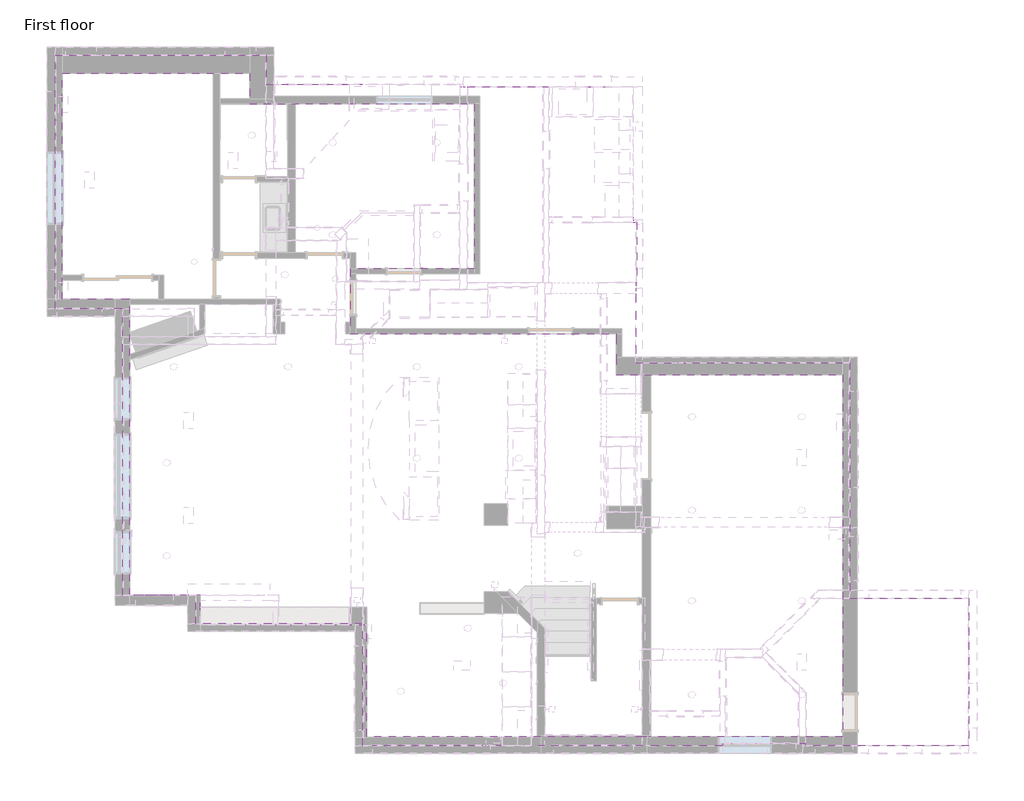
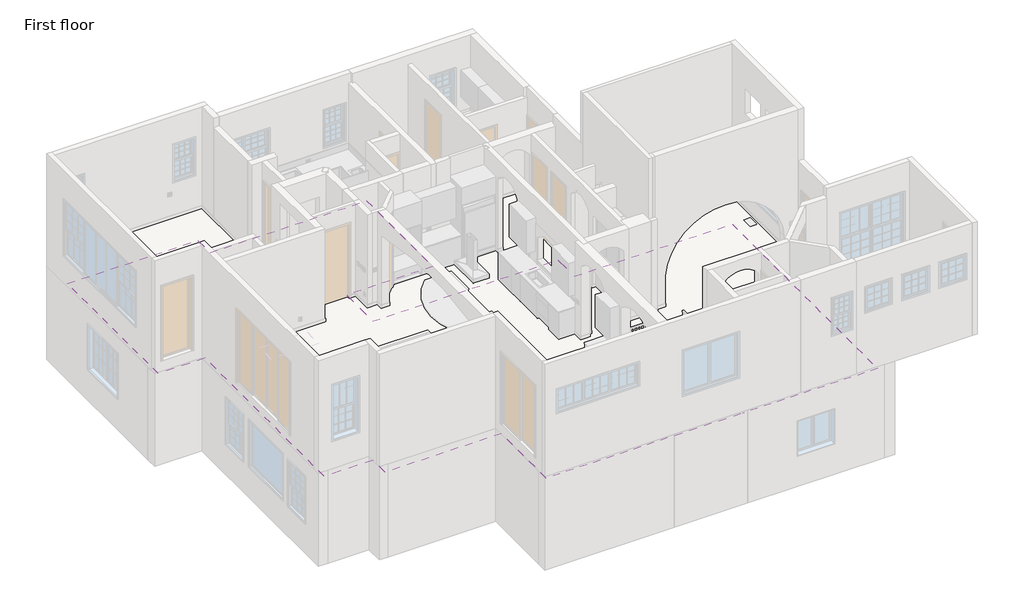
# One storey, part 9 of 14: 1 covering, 1 slab.
"""IFC4 building model written with IfcOpenShell, lengths in millimetres."""

from ifc_helpers import new_model, si_unit, frame, origin, place, context, project, spatial, polyline, circle_curve, faceted_brep, element, save
from ifc_brep_helpers import plane_surface, revolved_surface, advanced_brep

model = new_model("IFC4")

# Units and contexts
model_context = context("Model", 3, world=origin())
ifc_project = project(units=[si_unit("LENGTHUNIT", "METRE", prefix="MILLI")], contexts=[model_context])

# Site, building, storey
site = spatial("IfcSite", under=ifc_project)
building = spatial("IfcBuilding", under=site)
storey = spatial("IfcBuildingStorey", under=building, Name="First floor", Elevation=0.0)

# Covering
placement = place(None, origin())
element("IfcCovering", 1, ObjectType="Ceiling_13.5\"", at=placement, inside=storey, context=model_context, shape_type="AdvancedBrep", body=[
    advanced_brep(
    [(-2279.65, 14058.9, 2908.3), (-2279.65, 14719.3, 2908.3), (-6337.3, 14719.3, 2908.3), (-6337.3, 9829.8, 2908.3), (-4876.8, 9829.8, 2908.3), (-4876.8, 3416.3, 2908.3), (-3352.8, 3416.3, 2908.3), (-3352.8, 2768.6, 2908.3), (254.0176056, 2768.6, 2908.3), (254.0176056, 355.6, 2908.3), (4019.5496704, 355.6, 2908.3), (5841.9131509, 355.6, 2908.3), (6305.55, 355.6, 2908.3), (10553.7, 355.6, 2908.3), (10553.7, 8191.5, 2908.3), (5651.5, 8191.5, 2908.3), (5651.5, 9080.5, 2908.3), (-101.6, 9080.5, 2908.3), (-101.6, 10490.2, 2908.3), (2578.1, 10490.2, 2908.3), (2578.1, 14058.9, 2908.3), (4102.1, 381.0, 2908.3), (4102.1, 3721.1, 2908.3), (5092.7, 3721.1, 2908.3), (5092.7, 3352.8, 2908.3), (6210.3, 3352.8, 2908.3), (6210.3, 381.0, 2908.3), (-2279.65, 14719.3, 2565.4), (-2279.65, 14058.9, 2565.4), (2578.1, 14058.9, 2565.4), (2578.1, 10490.2, 2565.4), (-101.6, 10490.2, 2565.4), (-101.6, 9080.5, 2565.4), (5651.5, 9080.5, 2565.4), (5651.5, 8191.5, 2565.4), (10553.7, 8191.5, 2565.4), (10553.7, 355.6, 2565.4), (6400.8, 355.6, 2565.4), (6305.55, 355.6, 2565.4), (5841.9131509, 355.6, 2565.4), (4019.5496704, 355.6, 2565.4), (254.0176056, 355.6, 2565.4), (254.0176056, 2768.6, 2565.4), (-3352.8, 2768.6, 2565.4), (-3352.8, 3416.3, 2565.4), (-4876.8, 3416.3, 2565.4), (-4876.8, 9829.8, 2565.4), (-6337.3, 9829.8, 2565.4), (-6337.3, 14719.3, 2565.4), (4102.1, 3721.1, 2565.4), (4102.1, 381.0, 2565.4), (6210.3, 381.0, 2565.4), (6210.3, 3352.8, 2565.4), (5092.7, 3352.8, 2565.4), (5092.7, 3721.1, 2565.4), (9664.7, 1206.5266421, 2565.4), (9664.7, 1333.5266421, 2565.4), (9664.7, 7226.3266421, 2565.4), (9664.7, 7353.3266421, 2565.4), (7289.8, 7226.3266421, 2565.4), (7289.8, 7353.3266421, 2565.4), (7289.8, 5194.3266421, 2565.4), (7289.8, 5321.3266421, 2565.4), (9664.7, 5194.3266421, 2565.4), (9664.7, 5321.3266421, 2565.4), (9664.7, 3238.5266421, 2565.4), (9664.7, 3365.5266421, 2565.4), (7289.8, 3238.5266421, 2565.4), (7289.8, 3365.5266421, 2565.4), (7289.8, 1206.5266421, 2565.4), (7289.8, 1333.5266421, 2565.4), (-4076.7, 6223.0, 2565.4), (-4076.7, 6350.0, 2565.4), (-3924.3, 8305.8, 2565.4), (-3924.3, 8432.8, 2565.4), (-1454.15, 8305.8, 2565.4), (-1454.15, 8432.8, 2565.4), (1333.5, 6324.6, 2565.4), (1333.5, 6451.6, 2565.4), (1333.5, 8305.8, 2565.4), (1333.5, 8432.8, 2565.4), (3543.3, 8305.8, 2565.4), (3543.3, 8432.8, 2565.4), (3543.3, 6324.6, 2565.4), (3543.3, 6451.6, 2565.4), (-4076.7, 4216.4, 2565.4), (-4076.7, 4343.4, 2565.4), (2438.3996704, 2647.9620454, 2565.4), (2438.3996704, 2774.9620454, 2565.4), (990.6176056, 1276.35, 2565.4), (990.6176056, 1403.35, 2565.4), (3200.3996704, 1454.15, 2565.4), (3200.3996704, 1581.15, 2565.4), (4813.3, 4267.2, 2565.4), (4813.3, 4394.2, 2565.4), (-482.6, 13157.2, 2565.4), (-482.6, 13284.2, 2565.4), (1765.3, 13157.2, 2565.4), (1765.3, 13284.2, 2565.4), (1765.3, 11163.3, 2565.4), (1765.3, 11290.3, 2565.4), (-482.6, 11163.3, 2565.4), (-482.6, 11290.3, 2565.4), (-2235.2, 13309.6, 2565.4), (-2235.2, 13436.6, 2565.4), (-1524.0, 10299.7, 2565.4), (-1524.0, 10426.7, 2565.4), (9664.7, 1333.5266421, 2603.5), (9664.7, 1206.5266421, 2603.5), (9664.7, 7353.3266421, 2603.5), (9664.7, 7226.3266421, 2603.5), (7289.8, 7353.3266421, 2603.5), (7289.8, 7226.3266421, 2603.5), (7289.8, 5321.3266421, 2603.5), (7289.8, 5194.3266421, 2603.5), (9664.7, 5321.3266421, 2603.5), (9664.7, 5194.3266421, 2603.5), (9664.7, 3365.5266421, 2603.5), (9664.7, 3238.5266421, 2603.5), (7289.8, 3365.5266421, 2603.5), (7289.8, 3238.5266421, 2603.5), (7289.8, 1333.5266421, 2603.5), (7289.8, 1206.5266421, 2603.5), (-4076.7, 6350.0, 2603.5), (-4076.7, 6223.0, 2603.5), (-3924.3, 8432.8, 2603.5), (-3924.3, 8305.8, 2603.5), (-1454.15, 8432.8, 2603.5), (-1454.15, 8305.8, 2603.5), (1333.5, 6451.6, 2603.5), (1333.5, 6324.6, 2603.5), (1333.5, 8432.8, 2603.5), (1333.5, 8305.8, 2603.5), (3543.3, 8432.8, 2603.5), (3543.3, 8305.8, 2603.5), (3543.3, 6451.6, 2603.5), (3543.3, 6324.6, 2603.5), (-4076.7, 4343.4, 2603.5), (-4076.7, 4216.4, 2603.5), (2438.3996704, 2774.9620454, 2603.5), (2438.3996704, 2647.9620454, 2603.5), (990.6176056, 1403.35, 2603.5), (990.6176056, 1276.35, 2603.5), (3200.3996704, 1581.15, 2603.5), (3200.3996704, 1454.15, 2603.5), (4813.3, 4394.2, 2603.5), (4813.3, 4267.2, 2603.5), (-482.6, 13284.2, 2603.5), (-482.6, 13157.2, 2603.5), (1765.3, 13284.2, 2603.5), (1765.3, 13157.2, 2603.5), (1765.3, 11290.3, 2603.5), (1765.3, 11163.3, 2603.5), (-482.6, 11290.3, 2603.5), (-482.6, 11163.3, 2603.5), (-2235.2, 13436.6, 2603.5), (-2235.2, 13309.6, 2603.5), (-1524.0, 10426.7, 2603.5), (-1524.0, 10299.7, 2603.5)],
    [
        (0, 1),
        (1, 2),
        (2, 3),
        (3, 4),
        (4, 5),
        (5, 6),
        (6, 7),
        (7, 8),
        (8, 9),
        (9, 10),
        (10, 11),
        (11, 12),
        (12, 13),
        (13, 14),
        (14, 15),
        (15, 16),
        (16, 17),
        (17, 18),
        (18, 19),
        (19, 20),
        (20, 0),
        (21, 22),
        (22, 23),
        (23, 24),
        (24, 25),
        (25, 26),
        (26, 21),
        (27, 28),
        (28, 29),
        (29, 30),
        (30, 31),
        (31, 32),
        (32, 33),
        (33, 34),
        (34, 35),
        (35, 36),
        (36, 37),
        (37, 38),
        (38, 39),
        (39, 40),
        (40, 41),
        (41, 42),
        (42, 43),
        (43, 44),
        (44, 45),
        (45, 46),
        (46, 47),
        (47, 48),
        (48, 27),
        (49, 50),
        (50, 51),
        (51, 52),
        (52, 53),
        (53, 54),
        (54, 49),
        (55, 56, circle_curve(frame((9664.7, 1270.0266421, 2565.4), z_axis=(0.0, 0.0, 1.0), x_axis=(0.0, -1.0, 0.0)), 63.5)),
        (56, 55, circle_curve(frame((9664.7, 1270.0266421, 2565.4), z_axis=(0.0, 0.0, 1.0), x_axis=(0.0, -1.0, 0.0)), 63.5)),
        (57, 58, circle_curve(frame((9664.7, 7289.8266421, 2565.4), z_axis=(0.0, 0.0, 1.0), x_axis=(0.0, -1.0, 0.0)), 63.5)),
        (58, 57, circle_curve(frame((9664.7, 7289.8266421, 2565.4), z_axis=(0.0, 0.0, 1.0), x_axis=(0.0, -1.0, 0.0)), 63.5)),
        (59, 60, circle_curve(frame((7289.8, 7289.8266421, 2565.4), z_axis=(0.0, 0.0, 1.0), x_axis=(0.0, -1.0, 0.0)), 63.5)),
        (60, 59, circle_curve(frame((7289.8, 7289.8266421, 2565.4), z_axis=(0.0, 0.0, 1.0), x_axis=(0.0, -1.0, 0.0)), 63.5)),
        (61, 62, circle_curve(frame((7289.8, 5257.8266421, 2565.4), z_axis=(0.0, 0.0, 1.0), x_axis=(0.0, -1.0, 0.0)), 63.5)),
        (62, 61, circle_curve(frame((7289.8, 5257.8266421, 2565.4), z_axis=(0.0, 0.0, 1.0), x_axis=(0.0, -1.0, 0.0)), 63.5)),
        (63, 64, circle_curve(frame((9664.7, 5257.8266421, 2565.4), z_axis=(0.0, 0.0, 1.0), x_axis=(0.0, -1.0, 0.0)), 63.5)),
        (64, 63, circle_curve(frame((9664.7, 5257.8266421, 2565.4), z_axis=(0.0, 0.0, 1.0), x_axis=(0.0, -1.0, 0.0)), 63.5)),
        (65, 66, circle_curve(frame((9664.7, 3302.0266421, 2565.4), z_axis=(0.0, 0.0, 1.0), x_axis=(0.0, -1.0, 0.0)), 63.5)),
        (66, 65, circle_curve(frame((9664.7, 3302.0266421, 2565.4), z_axis=(0.0, 0.0, 1.0), x_axis=(0.0, -1.0, 0.0)), 63.5)),
        (67, 68, circle_curve(frame((7289.8, 3302.0266421, 2565.4), z_axis=(0.0, 0.0, 1.0), x_axis=(0.0, -1.0, 0.0)), 63.5)),
        (68, 67, circle_curve(frame((7289.8, 3302.0266421, 2565.4), z_axis=(0.0, 0.0, 1.0), x_axis=(0.0, -1.0, 0.0)), 63.5)),
        (69, 70, circle_curve(frame((7289.8, 1270.0266421, 2565.4), z_axis=(0.0, 0.0, 1.0), x_axis=(0.0, -1.0, 0.0)), 63.5)),
        (70, 69, circle_curve(frame((7289.8, 1270.0266421, 2565.4), z_axis=(0.0, 0.0, 1.0), x_axis=(0.0, -1.0, 0.0)), 63.5)),
        (71, 72, circle_curve(frame((-4076.7, 6286.5, 2565.4), z_axis=(0.0, 0.0, 1.0), x_axis=(0.0, -1.0, 0.0)), 63.5)),
        (72, 71, circle_curve(frame((-4076.7, 6286.5, 2565.4), z_axis=(0.0, 0.0, 1.0), x_axis=(0.0, -1.0, 0.0)), 63.5)),
        (73, 74, circle_curve(frame((-3924.3, 8369.3, 2565.4), z_axis=(0.0, 0.0, 1.0), x_axis=(0.0, -1.0, 0.0)), 63.5)),
        (74, 73, circle_curve(frame((-3924.3, 8369.3, 2565.4), z_axis=(0.0, 0.0, 1.0), x_axis=(0.0, -1.0, 0.0)), 63.5)),
        (75, 76, circle_curve(frame((-1454.15, 8369.3, 2565.4), z_axis=(0.0, 0.0, 1.0), x_axis=(0.0, -1.0, 0.0)), 63.5)),
        (76, 75, circle_curve(frame((-1454.15, 8369.3, 2565.4), z_axis=(0.0, 0.0, 1.0), x_axis=(0.0, -1.0, 0.0)), 63.5)),
        (77, 78, circle_curve(frame((1333.5, 6388.1, 2565.4), z_axis=(0.0, 0.0, 1.0), x_axis=(0.0, -1.0, 0.0)), 63.5)),
        (78, 77, circle_curve(frame((1333.5, 6388.1, 2565.4), z_axis=(0.0, 0.0, 1.0), x_axis=(0.0, -1.0, 0.0)), 63.5)),
        (79, 80, circle_curve(frame((1333.5, 8369.3, 2565.4), z_axis=(0.0, 0.0, 1.0), x_axis=(0.0, -1.0, 0.0)), 63.5)),
        (80, 79, circle_curve(frame((1333.5, 8369.3, 2565.4), z_axis=(0.0, 0.0, 1.0), x_axis=(0.0, -1.0, 0.0)), 63.5)),
        (81, 82, circle_curve(frame((3543.3, 8369.3, 2565.4), z_axis=(0.0, 0.0, 1.0), x_axis=(0.0, -1.0, 0.0)), 63.5)),
        (82, 81, circle_curve(frame((3543.3, 8369.3, 2565.4), z_axis=(0.0, 0.0, 1.0), x_axis=(0.0, -1.0, 0.0)), 63.5)),
        (83, 84, circle_curve(frame((3543.3, 6388.1, 2565.4), z_axis=(0.0, 0.0, 1.0), x_axis=(0.0, -1.0, 0.0)), 63.5)),
        (84, 83, circle_curve(frame((3543.3, 6388.1, 2565.4), z_axis=(0.0, 0.0, 1.0), x_axis=(0.0, -1.0, 0.0)), 63.5)),
        (85, 86, circle_curve(frame((-4076.7, 4279.9, 2565.4), z_axis=(0.0, 0.0, 1.0), x_axis=(0.0, -1.0, 0.0)), 63.5)),
        (86, 85, circle_curve(frame((-4076.7, 4279.9, 2565.4), z_axis=(0.0, 0.0, 1.0), x_axis=(0.0, -1.0, 0.0)), 63.5)),
        (87, 88, circle_curve(frame((2438.3996704, 2711.4620454, 2565.4), z_axis=(0.0, 0.0, 1.0), x_axis=(0.0, -1.0, 0.0)), 63.5)),
        (88, 87, circle_curve(frame((2438.3996704, 2711.4620454, 2565.4), z_axis=(0.0, 0.0, 1.0), x_axis=(0.0, -1.0, 0.0)), 63.5)),
        (89, 90, circle_curve(frame((990.6176056, 1339.85, 2565.4), z_axis=(0.0, 0.0, 1.0), x_axis=(0.0, -1.0, 0.0)), 63.5)),
        (90, 89, circle_curve(frame((990.6176056, 1339.85, 2565.4), z_axis=(0.0, 0.0, 1.0), x_axis=(0.0, -1.0, 0.0)), 63.5)),
        (91, 92, circle_curve(frame((3200.3996704, 1517.65, 2565.4), z_axis=(0.0, 0.0, 1.0), x_axis=(0.0, -1.0, 0.0)), 63.5)),
        (92, 91, circle_curve(frame((3200.3996704, 1517.65, 2565.4), z_axis=(0.0, 0.0, 1.0), x_axis=(0.0, -1.0, 0.0)), 63.5)),
        (93, 94, circle_curve(frame((4813.3, 4330.7, 2565.4), z_axis=(0.0, 0.0, 1.0), x_axis=(0.0, -1.0, 0.0)), 63.5)),
        (94, 93, circle_curve(frame((4813.3, 4330.7, 2565.4), z_axis=(0.0, 0.0, 1.0), x_axis=(0.0, -1.0, 0.0)), 63.5)),
        (95, 96, circle_curve(frame((-482.6, 13220.7, 2565.4), z_axis=(0.0, 0.0, 1.0), x_axis=(0.0, -1.0, 0.0)), 63.5)),
        (96, 95, circle_curve(frame((-482.6, 13220.7, 2565.4), z_axis=(0.0, 0.0, 1.0), x_axis=(0.0, -1.0, 0.0)), 63.5)),
        (97, 98, circle_curve(frame((1765.3, 13220.7, 2565.4), z_axis=(0.0, 0.0, 1.0), x_axis=(0.0, -1.0, 0.0)), 63.5)),
        (98, 97, circle_curve(frame((1765.3, 13220.7, 2565.4), z_axis=(0.0, 0.0, 1.0), x_axis=(0.0, -1.0, 0.0)), 63.5)),
        (99, 100, circle_curve(frame((1765.3, 11226.8, 2565.4), z_axis=(0.0, 0.0, 1.0), x_axis=(0.0, -1.0, 0.0)), 63.5)),
        (100, 99, circle_curve(frame((1765.3, 11226.8, 2565.4), z_axis=(0.0, 0.0, 1.0), x_axis=(0.0, -1.0, 0.0)), 63.5)),
        (101, 102, circle_curve(frame((-482.6, 11226.8, 2565.4), z_axis=(0.0, 0.0, 1.0), x_axis=(0.0, -1.0, 0.0)), 63.5)),
        (102, 101, circle_curve(frame((-482.6, 11226.8, 2565.4), z_axis=(0.0, 0.0, 1.0), x_axis=(0.0, -1.0, 0.0)), 63.5)),
        (103, 104, circle_curve(frame((-2235.2, 13373.1, 2565.4), z_axis=(0.0, 0.0, 1.0), x_axis=(0.0, -1.0, 0.0)), 63.5)),
        (104, 103, circle_curve(frame((-2235.2, 13373.1, 2565.4), z_axis=(0.0, 0.0, 1.0), x_axis=(0.0, -1.0, 0.0)), 63.5)),
        (105, 106, circle_curve(frame((-1524.0, 10363.2, 2565.4), z_axis=(0.0, 0.0, 1.0), x_axis=(0.0, -1.0, 0.0)), 63.5)),
        (106, 105, circle_curve(frame((-1524.0, 10363.2, 2565.4), z_axis=(0.0, 0.0, 1.0), x_axis=(0.0, -1.0, 0.0)), 63.5)),
        (0, 28),
        (27, 1),
        (48, 2),
        (47, 3),
        (46, 4),
        (45, 5),
        (44, 6),
        (43, 7),
        (42, 8),
        (41, 9),
        (39, 11),
        (13, 36),
        (35, 14),
        (34, 15),
        (33, 16),
        (32, 17),
        (31, 18),
        (30, 19),
        (29, 20),
        (21, 50),
        (49, 22),
        (24, 53),
        (52, 25),
        (51, 26),
        (54, 23),
        (107, 108, circle_curve(frame((9664.7, 1270.0266421, 2603.5), z_axis=(0.0, 0.0, -1.0), x_axis=(0.0, -1.0, 0.0)), 63.5)),
        (108, 107, circle_curve(frame((9664.7, 1270.0266421, 2603.5), z_axis=(0.0, 0.0, -1.0), x_axis=(0.0, -1.0, 0.0)), 63.5)),
        (107, 56),
        (55, 108),
        (109, 110, circle_curve(frame((9664.7, 7289.8266421, 2603.5), z_axis=(0.0, 0.0, -1.0), x_axis=(0.0, -1.0, 0.0)), 63.5)),
        (110, 109, circle_curve(frame((9664.7, 7289.8266421, 2603.5), z_axis=(0.0, 0.0, -1.0), x_axis=(0.0, -1.0, 0.0)), 63.5)),
        (109, 58),
        (57, 110),
        (111, 112, circle_curve(frame((7289.8, 7289.8266421, 2603.5), z_axis=(0.0, 0.0, -1.0), x_axis=(0.0, -1.0, 0.0)), 63.5)),
        (112, 111, circle_curve(frame((7289.8, 7289.8266421, 2603.5), z_axis=(0.0, 0.0, -1.0), x_axis=(0.0, -1.0, 0.0)), 63.5)),
        (111, 60),
        (59, 112),
        (113, 114, circle_curve(frame((7289.8, 5257.8266421, 2603.5), z_axis=(0.0, 0.0, -1.0), x_axis=(0.0, -1.0, 0.0)), 63.5)),
        (114, 113, circle_curve(frame((7289.8, 5257.8266421, 2603.5), z_axis=(0.0, 0.0, -1.0), x_axis=(0.0, -1.0, 0.0)), 63.5)),
        (113, 62),
        (61, 114),
        (115, 116, circle_curve(frame((9664.7, 5257.8266421, 2603.5), z_axis=(0.0, 0.0, -1.0), x_axis=(0.0, -1.0, 0.0)), 63.5)),
        (116, 115, circle_curve(frame((9664.7, 5257.8266421, 2603.5), z_axis=(0.0, 0.0, -1.0), x_axis=(0.0, -1.0, 0.0)), 63.5)),
        (115, 64),
        (63, 116),
        (117, 118, circle_curve(frame((9664.7, 3302.0266421, 2603.5), z_axis=(0.0, 0.0, -1.0), x_axis=(0.0, -1.0, 0.0)), 63.5)),
        (118, 117, circle_curve(frame((9664.7, 3302.0266421, 2603.5), z_axis=(0.0, 0.0, -1.0), x_axis=(0.0, -1.0, 0.0)), 63.5)),
        (117, 66),
        (65, 118),
        (119, 120, circle_curve(frame((7289.8, 3302.0266421, 2603.5), z_axis=(0.0, 0.0, -1.0), x_axis=(0.0, -1.0, 0.0)), 63.5)),
        (120, 119, circle_curve(frame((7289.8, 3302.0266421, 2603.5), z_axis=(0.0, 0.0, -1.0), x_axis=(0.0, -1.0, 0.0)), 63.5)),
        (119, 68),
        (67, 120),
        (121, 122, circle_curve(frame((7289.8, 1270.0266421, 2603.5), z_axis=(0.0, 0.0, -1.0), x_axis=(0.0, -1.0, 0.0)), 63.5)),
        (122, 121, circle_curve(frame((7289.8, 1270.0266421, 2603.5), z_axis=(0.0, 0.0, -1.0), x_axis=(0.0, -1.0, 0.0)), 63.5)),
        (121, 70),
        (69, 122),
        (123, 124, circle_curve(frame((-4076.7, 6286.5, 2603.5), z_axis=(0.0, 0.0, -1.0), x_axis=(0.0, -1.0, 0.0)), 63.5)),
        (124, 123, circle_curve(frame((-4076.7, 6286.5, 2603.5), z_axis=(0.0, 0.0, -1.0), x_axis=(0.0, -1.0, 0.0)), 63.5)),
        (123, 72),
        (71, 124),
        (125, 126, circle_curve(frame((-3924.3, 8369.3, 2603.5), z_axis=(0.0, 0.0, -1.0), x_axis=(0.0, -1.0, 0.0)), 63.5)),
        (126, 125, circle_curve(frame((-3924.3, 8369.3, 2603.5), z_axis=(0.0, 0.0, -1.0), x_axis=(0.0, -1.0, 0.0)), 63.5)),
        (125, 74),
        (73, 126),
        (127, 128, circle_curve(frame((-1454.15, 8369.3, 2603.5), z_axis=(0.0, 0.0, -1.0), x_axis=(0.0, -1.0, 0.0)), 63.5)),
        (128, 127, circle_curve(frame((-1454.15, 8369.3, 2603.5), z_axis=(0.0, 0.0, -1.0), x_axis=(0.0, -1.0, 0.0)), 63.5)),
        (127, 76),
        (75, 128),
        (129, 130, circle_curve(frame((1333.5, 6388.1, 2603.5), z_axis=(0.0, 0.0, -1.0), x_axis=(0.0, -1.0, 0.0)), 63.5)),
        (130, 129, circle_curve(frame((1333.5, 6388.1, 2603.5), z_axis=(0.0, 0.0, -1.0), x_axis=(0.0, -1.0, 0.0)), 63.5)),
        (129, 78),
        (77, 130),
        (131, 132, circle_curve(frame((1333.5, 8369.3, 2603.5), z_axis=(0.0, 0.0, -1.0), x_axis=(0.0, -1.0, 0.0)), 63.5)),
        (132, 131, circle_curve(frame((1333.5, 8369.3, 2603.5), z_axis=(0.0, 0.0, -1.0), x_axis=(0.0, -1.0, 0.0)), 63.5)),
        (131, 80),
        (79, 132),
        (133, 134, circle_curve(frame((3543.3, 8369.3, 2603.5), z_axis=(0.0, 0.0, -1.0), x_axis=(0.0, -1.0, 0.0)), 63.5)),
        (134, 133, circle_curve(frame((3543.3, 8369.3, 2603.5), z_axis=(0.0, 0.0, -1.0), x_axis=(0.0, -1.0, 0.0)), 63.5)),
        (133, 82),
        (81, 134),
        (135, 136, circle_curve(frame((3543.3, 6388.1, 2603.5), z_axis=(0.0, 0.0, -1.0), x_axis=(0.0, -1.0, 0.0)), 63.5)),
        (136, 135, circle_curve(frame((3543.3, 6388.1, 2603.5), z_axis=(0.0, 0.0, -1.0), x_axis=(0.0, -1.0, 0.0)), 63.5)),
        (135, 84),
        (83, 136),
        (137, 138, circle_curve(frame((-4076.7, 4279.9, 2603.5), z_axis=(0.0, 0.0, -1.0), x_axis=(0.0, -1.0, 0.0)), 63.5)),
        (138, 137, circle_curve(frame((-4076.7, 4279.9, 2603.5), z_axis=(0.0, 0.0, -1.0), x_axis=(0.0, -1.0, 0.0)), 63.5)),
        (137, 86),
        (85, 138),
        (139, 140, circle_curve(frame((2438.3996704, 2711.4620454, 2603.5), z_axis=(0.0, 0.0, -1.0), x_axis=(0.0, -1.0, 0.0)), 63.5)),
        (140, 139, circle_curve(frame((2438.3996704, 2711.4620454, 2603.5), z_axis=(0.0, 0.0, -1.0), x_axis=(0.0, -1.0, 0.0)), 63.5)),
        (139, 88),
        (87, 140),
        (141, 142, circle_curve(frame((990.6176056, 1339.85, 2603.5), z_axis=(0.0, 0.0, -1.0), x_axis=(0.0, -1.0, 0.0)), 63.5)),
        (142, 141, circle_curve(frame((990.6176056, 1339.85, 2603.5), z_axis=(0.0, 0.0, -1.0), x_axis=(0.0, -1.0, 0.0)), 63.5)),
        (141, 90),
        (89, 142),
        (143, 144, circle_curve(frame((3200.3996704, 1517.65, 2603.5), z_axis=(0.0, 0.0, -1.0), x_axis=(0.0, -1.0, 0.0)), 63.5)),
        (144, 143, circle_curve(frame((3200.3996704, 1517.65, 2603.5), z_axis=(0.0, 0.0, -1.0), x_axis=(0.0, -1.0, 0.0)), 63.5)),
        (143, 92),
        (91, 144),
        (145, 146, circle_curve(frame((4813.3, 4330.7, 2603.5), z_axis=(0.0, 0.0, -1.0), x_axis=(0.0, -1.0, 0.0)), 63.5)),
        (146, 145, circle_curve(frame((4813.3, 4330.7, 2603.5), z_axis=(0.0, 0.0, -1.0), x_axis=(0.0, -1.0, 0.0)), 63.5)),
        (145, 94),
        (93, 146),
        (147, 148, circle_curve(frame((-482.6, 13220.7, 2603.5), z_axis=(0.0, 0.0, -1.0), x_axis=(0.0, -1.0, 0.0)), 63.5)),
        (148, 147, circle_curve(frame((-482.6, 13220.7, 2603.5), z_axis=(0.0, 0.0, -1.0), x_axis=(0.0, -1.0, 0.0)), 63.5)),
        (147, 96),
        (95, 148),
        (149, 150, circle_curve(frame((1765.3, 13220.7, 2603.5), z_axis=(0.0, 0.0, -1.0), x_axis=(0.0, -1.0, 0.0)), 63.5)),
        (150, 149, circle_curve(frame((1765.3, 13220.7, 2603.5), z_axis=(0.0, 0.0, -1.0), x_axis=(0.0, -1.0, 0.0)), 63.5)),
        (149, 98),
        (97, 150),
        (151, 152, circle_curve(frame((1765.3, 11226.8, 2603.5), z_axis=(0.0, 0.0, -1.0), x_axis=(0.0, -1.0, 0.0)), 63.5)),
        (152, 151, circle_curve(frame((1765.3, 11226.8, 2603.5), z_axis=(0.0, 0.0, -1.0), x_axis=(0.0, -1.0, 0.0)), 63.5)),
        (151, 100),
        (99, 152),
        (153, 154, circle_curve(frame((-482.6, 11226.8, 2603.5), z_axis=(0.0, 0.0, -1.0), x_axis=(0.0, -1.0, 0.0)), 63.5)),
        (154, 153, circle_curve(frame((-482.6, 11226.8, 2603.5), z_axis=(0.0, 0.0, -1.0), x_axis=(0.0, -1.0, 0.0)), 63.5)),
        (153, 102),
        (101, 154),
        (155, 156, circle_curve(frame((-2235.2, 13373.1, 2603.5), z_axis=(0.0, 0.0, -1.0), x_axis=(0.0, -1.0, 0.0)), 63.5)),
        (156, 155, circle_curve(frame((-2235.2, 13373.1, 2603.5), z_axis=(0.0, 0.0, -1.0), x_axis=(0.0, -1.0, 0.0)), 63.5)),
        (155, 104),
        (103, 156),
        (157, 158, circle_curve(frame((-1524.0, 10363.2, 2603.5), z_axis=(0.0, 0.0, -1.0), x_axis=(0.0, -1.0, 0.0)), 63.5)),
        (158, 157, circle_curve(frame((-1524.0, 10363.2, 2603.5), z_axis=(0.0, 0.0, -1.0), x_axis=(0.0, -1.0, 0.0)), 63.5)),
        (157, 106),
        (105, 158),
    ],
    [
        plane_surface(frame((-2279.65, 14173.2, 2908.3), z_axis=(0.0, 0.0, 1.0), x_axis=(0.0, 1.0, 0.0))),
        plane_surface(frame((-2279.65, 14173.2, 2565.4), z_axis=(0.0, 0.0, -1.0), x_axis=(0.0, -1.0, 0.0))),
        plane_surface(frame((-2279.65, 14058.9, 2908.3), z_axis=(1.0, 0.0, 0.0), x_axis=(0.0, 0.0, -1.0))),
        plane_surface(frame((-2279.65, 14719.3, 2908.3), z_axis=(0.0, 1.0, 0.0), x_axis=(0.0, 0.0, -1.0))),
        plane_surface(frame((-6337.3, 14719.3, 2908.3), z_axis=(-1.0, 0.0, 0.0), x_axis=(0.0, 0.0, -1.0))),
        plane_surface(frame((-6337.3, 9829.8, 2908.3), z_axis=(0.0, -1.0, 0.0), x_axis=(0.0, 0.0, -1.0))),
        plane_surface(frame((-4876.8, 9829.8, 2908.3), z_axis=(-1.0, 0.0, 0.0), x_axis=(0.0, 0.0, -1.0))),
        plane_surface(frame((-4876.8, 3416.3, 2908.3), z_axis=(0.0, -1.0, 0.0), x_axis=(0.0, 0.0, -1.0))),
        plane_surface(frame((-3352.8, 3416.3, 2908.3), z_axis=(-1.0, 0.0, 0.0), x_axis=(0.0, 0.0, -1.0))),
        plane_surface(frame((-3352.8, 2768.6, 2908.3), z_axis=(0.0, -1.0, 0.0), x_axis=(0.0, 0.0, -1.0))),
        plane_surface(frame((254.0176056, 2768.6, 2908.3), z_axis=(-1.0, 0.0, 0.0), x_axis=(0.0, 0.0, -1.0))),
        plane_surface(frame((254.0176056, 355.6, 2908.3), z_axis=(0.0, -1.0, 0.0), x_axis=(0.0, 0.0, -1.0))),
        plane_surface(frame((10553.7, 355.6, 2908.3), z_axis=(1.0, 0.0, 0.0), x_axis=(0.0, 0.0, -1.0))),
        plane_surface(frame((10553.7, 8191.5, 2908.3), z_axis=(0.0, 1.0, 0.0), x_axis=(0.0, 0.0, -1.0))),
        plane_surface(frame((5651.5, 8191.5, 2908.3), z_axis=(1.0, 0.0, 0.0), x_axis=(0.0, 0.0, -1.0))),
        plane_surface(frame((5651.5, 9080.5, 2908.3), z_axis=(0.0, 1.0, 0.0), x_axis=(0.0, 0.0, -1.0))),
        plane_surface(frame((-101.6, 9080.5, 2908.3), z_axis=(1.0, 0.0, 0.0), x_axis=(0.0, 0.0, -1.0))),
        plane_surface(frame((-101.6, 10490.2, 2908.3), z_axis=(0.0, -1.0, 0.0), x_axis=(0.0, 0.0, -1.0))),
        plane_surface(frame((2578.1, 10490.2, 2908.3), z_axis=(1.0, 0.0, 0.0), x_axis=(0.0, 0.0, -1.0))),
        plane_surface(frame((2578.1, 14058.9, 2908.3), z_axis=(0.0, 1.0, 0.0), x_axis=(0.0, 0.0, -1.0))),
        plane_surface(frame((4102.1, 381.0, 2908.3), z_axis=(1.0, 0.0, 0.0), x_axis=(0.0, 0.0, -1.0))),
        plane_surface(frame((5092.7, 3352.8, 2908.3), z_axis=(0.0, -1.0, 0.0), x_axis=(0.0, 0.0, -1.0))),
        plane_surface(frame((6210.3, 3352.8, 2908.3), z_axis=(-1.0, 0.0, 0.0), x_axis=(0.0, 0.0, -1.0))),
        plane_surface(frame((5841.9131509, 355.6, 2908.3), z_axis=(0.0, -1.0, 0.0), x_axis=(0.0, 0.0, -1.0))),
        plane_surface(frame((6210.3, 381.0, 2908.3), z_axis=(0.0, 1.0, 0.0), x_axis=(0.0, 0.0, -1.0))),
        plane_surface(frame((4102.1, 3721.1, 2908.3), z_axis=(0.0, -1.0, 0.0), x_axis=(0.0, 0.0, -1.0))),
        plane_surface(frame((5092.7, 3721.1, 2908.3), z_axis=(-1.0, 0.0, 0.0), x_axis=(0.0, 0.0, -1.0))),
        plane_surface(frame((9664.7, 1206.5266421, 2603.5), z_axis=(0.0, 0.0, -1.0), x_axis=(1.0, 0.0, 0.0))),
        revolved_surface(polyline([(9664.7, 1206.5266421, 2565.4), (9664.7, 1206.5266421, 2603.5)]), (9664.7, 1270.0266421, 2603.5), (0.0, 0.0, -1.0)),
        plane_surface(frame((9664.7, 7226.3266421, 2603.5), z_axis=(0.0, 0.0, -1.0), x_axis=(1.0, 0.0, 0.0))),
        revolved_surface(polyline([(9664.7, 7226.3266421, 2565.4), (9664.7, 7226.3266421, 2603.5)]), (9664.7, 7289.8266421, 2603.5), (0.0, 0.0, -1.0)),
        plane_surface(frame((7289.8, 7226.3266421, 2603.5), z_axis=(0.0, 0.0, -1.0), x_axis=(1.0, 0.0, 0.0))),
        revolved_surface(polyline([(7289.8, 7226.3266421, 2565.4), (7289.8, 7226.3266421, 2603.5)]), (7289.8, 7289.8266421, 2603.5), (0.0, 0.0, -1.0)),
        plane_surface(frame((7289.8, 5194.3266421, 2603.5), z_axis=(0.0, 0.0, -1.0), x_axis=(1.0, 0.0, 0.0))),
        revolved_surface(polyline([(7289.8, 5194.3266421, 2565.4), (7289.8, 5194.3266421, 2603.5)]), (7289.8, 5257.8266421, 2603.5), (0.0, 0.0, -1.0)),
        plane_surface(frame((9664.7, 5194.3266421, 2603.5), z_axis=(0.0, 0.0, -1.0), x_axis=(1.0, 0.0, 0.0))),
        revolved_surface(polyline([(9664.7, 5194.3266421, 2565.4), (9664.7, 5194.3266421, 2603.5)]), (9664.7, 5257.8266421, 2603.5), (0.0, 0.0, -1.0)),
        plane_surface(frame((9664.7, 3238.5266421, 2603.5), z_axis=(0.0, 0.0, -1.0), x_axis=(1.0, 0.0, 0.0))),
        revolved_surface(polyline([(9664.7, 3238.5266421, 2565.4), (9664.7, 3238.5266421, 2603.5)]), (9664.7, 3302.0266421, 2603.5), (0.0, 0.0, -1.0)),
        plane_surface(frame((7289.8, 3238.5266421, 2603.5), z_axis=(0.0, 0.0, -1.0), x_axis=(1.0, 0.0, 0.0))),
        revolved_surface(polyline([(7289.8, 3238.5266421, 2565.4), (7289.8, 3238.5266421, 2603.5)]), (7289.8, 3302.0266421, 2603.5), (0.0, 0.0, -1.0)),
        plane_surface(frame((7289.8, 1206.5266421, 2603.5), z_axis=(0.0, 0.0, -1.0), x_axis=(1.0, 0.0, 0.0))),
        revolved_surface(polyline([(7289.8, 1206.5266421, 2565.4), (7289.8, 1206.5266421, 2603.5)]), (7289.8, 1270.0266421, 2603.5), (0.0, 0.0, -1.0)),
        plane_surface(frame((-4076.7, 6223.0, 2603.5), z_axis=(0.0, 0.0, -1.0), x_axis=(1.0, 0.0, 0.0))),
        revolved_surface(polyline([(-4076.7, 6223.0, 2565.4), (-4076.7, 6223.0, 2603.5)]), (-4076.7, 6286.5, 2603.5), (0.0, 0.0, -1.0)),
        plane_surface(frame((-3924.3, 8305.8, 2603.5), z_axis=(0.0, 0.0, -1.0), x_axis=(1.0, 0.0, 0.0))),
        revolved_surface(polyline([(-3924.3, 8305.8, 2565.4), (-3924.3, 8305.8, 2603.5)]), (-3924.3, 8369.3, 2603.5), (0.0, 0.0, -1.0)),
        plane_surface(frame((-1454.15, 8305.8, 2603.5), z_axis=(0.0, 0.0, -1.0), x_axis=(1.0, 0.0, 0.0))),
        revolved_surface(polyline([(-1454.15, 8305.8, 2565.4), (-1454.15, 8305.8, 2603.5)]), (-1454.15, 8369.3, 2603.5), (0.0, 0.0, -1.0)),
        plane_surface(frame((1333.5, 6324.6, 2603.5), z_axis=(0.0, 0.0, -1.0), x_axis=(1.0, 0.0, 0.0))),
        revolved_surface(polyline([(1333.5, 6324.6, 2565.4), (1333.5, 6324.6, 2603.5)]), (1333.5, 6388.1, 2603.5), (0.0, 0.0, -1.0)),
        plane_surface(frame((1333.5, 8305.8, 2603.5), z_axis=(0.0, 0.0, -1.0), x_axis=(1.0, 0.0, 0.0))),
        revolved_surface(polyline([(1333.5, 8305.8, 2565.4), (1333.5, 8305.8, 2603.5)]), (1333.5, 8369.3, 2603.5), (0.0, 0.0, -1.0)),
        plane_surface(frame((3543.3, 8305.8, 2603.5), z_axis=(0.0, 0.0, -1.0), x_axis=(1.0, 0.0, 0.0))),
        revolved_surface(polyline([(3543.3, 8305.8, 2565.4), (3543.3, 8305.8, 2603.5)]), (3543.3, 8369.3, 2603.5), (0.0, 0.0, -1.0)),
        plane_surface(frame((3543.3, 6324.6, 2603.5), z_axis=(0.0, 0.0, -1.0), x_axis=(1.0, 0.0, 0.0))),
        revolved_surface(polyline([(3543.3, 6324.6, 2565.4), (3543.3, 6324.6, 2603.5)]), (3543.3, 6388.1, 2603.5), (0.0, 0.0, -1.0)),
        plane_surface(frame((-4076.7, 4216.4, 2603.5), z_axis=(0.0, 0.0, -1.0), x_axis=(1.0, 0.0, 0.0))),
        revolved_surface(polyline([(-4076.7, 4216.4, 2565.4), (-4076.7, 4216.4, 2603.5)]), (-4076.7, 4279.9, 2603.5), (0.0, 0.0, -1.0)),
        plane_surface(frame((2438.3996704, 2647.9620454, 2603.5), z_axis=(0.0, 0.0, -1.0), x_axis=(1.0, 0.0, 0.0))),
        revolved_surface(polyline([(2438.3996704, 2647.9620454, 2565.4), (2438.3996704, 2647.9620454, 2603.5)]), (2438.3996704, 2711.4620454, 2603.5), (0.0, 0.0, -1.0)),
        plane_surface(frame((990.6176056, 1276.35, 2603.5), z_axis=(0.0, 0.0, -1.0), x_axis=(1.0, 0.0, 0.0))),
        revolved_surface(polyline([(990.6176056, 1276.35, 2565.4), (990.6176056, 1276.35, 2603.5)]), (990.6176056, 1339.85, 2603.5), (0.0, 0.0, -1.0)),
        plane_surface(frame((3200.3996704, 1454.15, 2603.5), z_axis=(0.0, 0.0, -1.0), x_axis=(1.0, 0.0, 0.0))),
        revolved_surface(polyline([(3200.3996704, 1454.15, 2565.4), (3200.3996704, 1454.15, 2603.5)]), (3200.3996704, 1517.65, 2603.5), (0.0, 0.0, -1.0)),
        plane_surface(frame((4813.3, 4267.2, 2603.5), z_axis=(0.0, 0.0, -1.0), x_axis=(1.0, 0.0, 0.0))),
        revolved_surface(polyline([(4813.3, 4267.2, 2565.4), (4813.3, 4267.2, 2603.5)]), (4813.3, 4330.7, 2603.5), (0.0, 0.0, -1.0)),
        plane_surface(frame((-482.6, 13157.2, 2603.5), z_axis=(0.0, 0.0, -1.0), x_axis=(1.0, 0.0, 0.0))),
        revolved_surface(polyline([(-482.6, 13157.2, 2565.4), (-482.6, 13157.2, 2603.5)]), (-482.6, 13220.7, 2603.5), (0.0, 0.0, -1.0)),
        plane_surface(frame((1765.3, 13157.2, 2603.5), z_axis=(0.0, 0.0, -1.0), x_axis=(1.0, 0.0, 0.0))),
        revolved_surface(polyline([(1765.3, 13157.2, 2565.4), (1765.3, 13157.2, 2603.5)]), (1765.3, 13220.7, 2603.5), (0.0, 0.0, -1.0)),
        plane_surface(frame((1765.3, 11163.3, 2603.5), z_axis=(0.0, 0.0, -1.0), x_axis=(1.0, 0.0, 0.0))),
        revolved_surface(polyline([(1765.3, 11163.3, 2565.4), (1765.3, 11163.3, 2603.5)]), (1765.3, 11226.8, 2603.5), (0.0, 0.0, -1.0)),
        plane_surface(frame((-482.6, 11163.3, 2603.5), z_axis=(0.0, 0.0, -1.0), x_axis=(1.0, 0.0, 0.0))),
        revolved_surface(polyline([(-482.6, 11163.3, 2565.4), (-482.6, 11163.3, 2603.5)]), (-482.6, 11226.8, 2603.5), (0.0, 0.0, -1.0)),
        plane_surface(frame((-2235.2, 13309.6, 2603.5), z_axis=(0.0, 0.0, -1.0), x_axis=(1.0, 0.0, 0.0))),
        revolved_surface(polyline([(-2235.2, 13309.6, 2565.4), (-2235.2, 13309.6, 2603.5)]), (-2235.2, 13373.1, 2603.5), (0.0, 0.0, -1.0)),
        plane_surface(frame((-1524.0, 10299.7, 2603.5), z_axis=(0.0, 0.0, -1.0), x_axis=(1.0, 0.0, 0.0))),
        revolved_surface(polyline([(-1524.0, 10299.7, 2565.4), (-1524.0, 10299.7, 2603.5)]), (-1524.0, 10363.2, 2603.5), (0.0, 0.0, -1.0)),
    ],
    [
        (0, [[1, 2, 3, 4, 5, 6, 7, 8, 9, 10, 11, 12, 13, 14, 15, 16, 17, 18, 19, 20, 21], [22, 23, 24, 25, 26, 27]]),
        (1, [[28, 29, 30, 31, 32, 33, 34, 35, 36, 37, 38, 39, 40, 41, 42, 43, 44, 45, 46, 47, 48, 49], [50, 51, 52, 53, 54, 55], [56, 57], [58, 59], [60, 61], [62, 63], [64, 65], [66, 67], [68, 69], [70, 71], [72, 73], [74, 75], [76, 77], [78, 79], [80, 81], [82, 83], [84, 85], [86, 87], [88, 89], [90, 91], [92, 93], [94, 95], [96, 97], [98, 99], [100, 101], [102, 103], [104, 105], [106, 107]]),
        (2, [[-1, 108, -28, 109]]),
        (3, [[-2, -109, -49, 110]]),
        (4, [[-3, -110, -48, 111]]),
        (5, [[-4, -111, -47, 112]]),
        (6, [[-5, -112, -46, 113]]),
        (7, [[-6, -113, -45, 114]]),
        (8, [[-7, -114, -44, 115]]),
        (9, [[-8, -115, -43, 116]]),
        (10, [[-9, -116, -42, 117]]),
        (11, [[-11, -10, -117, -41, -40, 118]]),
        (12, [[-14, 119, -36, 120]]),
        (13, [[-15, -120, -35, 121]]),
        (14, [[-16, -121, -34, 122]]),
        (15, [[-17, -122, -33, 123]]),
        (16, [[-18, -123, -32, 124]]),
        (17, [[-19, -124, -31, 125]]),
        (18, [[-20, -125, -30, 126]]),
        (19, [[-21, -126, -29, -108]]),
        (20, [[-22, 127, -50, 128]]),
        (21, [[-25, 129, -53, 130]]),
        (22, [[-26, -130, -52, 131]]),
        (23, [[-13, -12, -118, -39, -38, -37, -119]]),
        (24, [[-27, -131, -51, -127]]),
        (25, [[-23, -128, -55, 132]]),
        (26, [[-24, -132, -54, -129]]),
        (27, [[133, 134]]),
        (28, [[-133, 135, -56, 136]]),
        (28, [[-134, -136, -57, -135]]),
        (29, [[137, 138]]),
        (30, [[-137, 139, -58, 140]]),
        (30, [[-138, -140, -59, -139]]),
        (31, [[141, 142]]),
        (32, [[-141, 143, -60, 144]]),
        (32, [[-142, -144, -61, -143]]),
        (33, [[145, 146]]),
        (34, [[-145, 147, -62, 148]]),
        (34, [[-146, -148, -63, -147]]),
        (35, [[149, 150]]),
        (36, [[-149, 151, -64, 152]]),
        (36, [[-150, -152, -65, -151]]),
        (37, [[153, 154]]),
        (38, [[-153, 155, -66, 156]]),
        (38, [[-154, -156, -67, -155]]),
        (39, [[157, 158]]),
        (40, [[-157, 159, -68, 160]]),
        (40, [[-158, -160, -69, -159]]),
        (41, [[161, 162]]),
        (42, [[-161, 163, -70, 164]]),
        (42, [[-162, -164, -71, -163]]),
        (43, [[165, 166]]),
        (44, [[-165, 167, -72, 168]]),
        (44, [[-166, -168, -73, -167]]),
        (45, [[169, 170]]),
        (46, [[-169, 171, -74, 172]]),
        (46, [[-170, -172, -75, -171]]),
        (47, [[173, 174]]),
        (48, [[-173, 175, -76, 176]]),
        (48, [[-174, -176, -77, -175]]),
        (49, [[177, 178]]),
        (50, [[-177, 179, -78, 180]]),
        (50, [[-178, -180, -79, -179]]),
        (51, [[181, 182]]),
        (52, [[-181, 183, -80, 184]]),
        (52, [[-182, -184, -81, -183]]),
        (53, [[185, 186]]),
        (54, [[-185, 187, -82, 188]]),
        (54, [[-186, -188, -83, -187]]),
        (55, [[189, 190]]),
        (56, [[-189, 191, -84, 192]]),
        (56, [[-190, -192, -85, -191]]),
        (57, [[193, 194]]),
        (58, [[-193, 195, -86, 196]]),
        (58, [[-194, -196, -87, -195]]),
        (59, [[197, 198]]),
        (60, [[-197, 199, -88, 200]]),
        (60, [[-198, -200, -89, -199]]),
        (61, [[201, 202]]),
        (62, [[-201, 203, -90, 204]]),
        (62, [[-202, -204, -91, -203]]),
        (63, [[205, 206]]),
        (64, [[-205, 207, -92, 208]]),
        (64, [[-206, -208, -93, -207]]),
        (65, [[209, 210]]),
        (66, [[-209, 211, -94, 212]]),
        (66, [[-210, -212, -95, -211]]),
        (67, [[213, 214]]),
        (68, [[-213, 215, -96, 216]]),
        (68, [[-214, -216, -97, -215]]),
        (69, [[217, 218]]),
        (70, [[-217, 219, -98, 220]]),
        (70, [[-218, -220, -99, -219]]),
        (71, [[221, 222]]),
        (72, [[-221, 223, -100, 224]]),
        (72, [[-222, -224, -101, -223]]),
        (73, [[225, 226]]),
        (74, [[-225, 227, -102, 228]]),
        (74, [[-226, -228, -103, -227]]),
        (75, [[229, 230]]),
        (76, [[-229, 231, -104, 232]]),
        (76, [[-230, -232, -105, -231]]),
        (77, [[233, 234]]),
        (78, [[-233, 235, -106, 236]]),
        (78, [[-234, -236, -107, -235]]),
    ],
),
])

# Slab
element("IfcSlab", 2, ObjectType="Floor_13.5\"", at=placement, inside=storey, context=model_context, shape_type="Brep", body=[
    faceted_brep([(-6496.05, 9626.6, 2908.3), (-6496.05, 15113.0, 2908.3), (-1924.05, 15113.0, 2908.3), (-1924.05, 14477.8947939, 2908.3), (2260.6, 14477.8947939, 2908.3), (2260.6, 14427.0947939, 2908.3), (2343.15, 14427.0947939, 2908.3), (6019.8, 14427.0947939, 2908.3), (6019.8, 11550.5447939, 2908.3), (6019.8, 11493.3947939, 2908.3), (6096.0, 11493.3947939, 2908.3), (6096.0, 10185.2947939, 2908.3), (6070.6, 10185.2947939, 2908.3), (6070.6, 10064.6447939, 2908.3), (6070.6, 8458.2, 2908.3), (10706.1, 8458.2, 2908.3), (10706.1, 3359.15, 2908.3), (13284.2, 3359.15, 2908.3), (13284.2, 165.1, 2908.3), (9753.6, 165.1, 2908.3), (9753.6, 203.2, 2908.3), (7956.55, 203.2, 2908.3), (7956.55, 165.1, 2908.3), (6226.3743908, 165.1, 2908.3), (165.1, 165.1, 2908.3), (165.1, 2806.7, 2908.3), (-3454.4, 2806.7, 2908.3), (-3454.4, 3416.3, 2908.3), (-5029.2, 3416.3, 2908.3), (-5029.2, 9626.6, 2908.3), (6210.3, 381.0, 2908.3), (6210.3, 3263.9, 2908.3), (5219.7, 3263.9, 2908.3), (5105.4, 3263.9, 2908.3), (4102.1, 3263.9, 2908.3), (4102.1, 381.0, 2908.3), (-6496.05, 15113.0, 3251.2), (-6496.05, 9626.6, 3251.2), (-5029.2, 9626.6, 3251.2), (-5029.2, 3416.3, 3251.2), (-3454.4, 3416.3, 3251.2), (-3454.4, 2806.7, 3251.2), (165.1, 2806.7, 3251.2), (165.1, 165.1, 3251.2), (6226.3743908, 165.1, 3251.2), (7956.55, 165.1, 3251.2), (7956.55, 203.2, 3251.2), (9753.6, 203.2, 3251.2), (9753.6, 165.1, 3251.2), (13284.2, 165.1, 3251.2), (13284.2, 3359.15, 3251.2), (10706.1, 3359.15, 3251.2), (10706.1, 8458.2, 3251.2), (6070.6, 8458.2, 3251.2), (6070.6, 9943.9947939, 3251.2), (6070.6, 10064.6447939, 3251.2), (6070.6, 10185.2947939, 3251.2), (6096.0, 10185.2947939, 3251.2), (6096.0, 11493.3947939, 3251.2), (6019.8, 11493.3947939, 3251.2), (6019.8, 11550.5447939, 3251.2), (6019.8, 11607.6947939, 3251.2), (6019.8, 14427.0947939, 3251.2), (2425.7, 14427.0947939, 3251.2), (2343.15, 14427.0947939, 3251.2), (2260.6, 14427.0947939, 3251.2), (2260.6, 14477.8947939, 3251.2), (-1924.05, 14477.8947939, 3251.2), (-1924.05, 15113.0, 3251.2), (6210.3, 3263.9, 3251.2), (6210.3, 381.0, 3251.2), (4102.1, 381.0, 3251.2), (4102.1, 3263.9, 3251.2), (6210.3, 3263.9, 3060.7), (6210.3, 3263.9, 3035.3), (5219.7, 3263.9, 3035.3), (5105.4, 3263.9, 3035.3), (5092.7, 3263.9, 3035.3), (5092.7, 3263.9, 3060.7), (6220.3210937, 3263.9, 3060.7), (6220.3210937, 3301.9716587, 3060.7), (6220.3210937, 3301.9716587, 3035.3), (6220.3210937, 3263.9, 3035.3), (5092.7, 3301.9716587, 3035.3), (5092.7, 3301.9716587, 3060.7)], [[[0, 1, 2, 3, 4, 5, 6, 7, 8, 9, 10, 11, 12, 13, 14, 15, 16, 17, 18, 19, 20, 21, 22, 23, 24, 25, 26, 27, 28, 29], [30, 31, 32, 33, 34, 35]], [[36, 37, 38, 39, 40, 41, 42, 43, 44, 45, 46, 47, 48, 49, 50, 51, 52, 53, 54, 55, 56, 57, 58, 59, 60, 61, 62, 63, 64, 65, 66, 67, 68], [69, 70, 71, 72]], [[1, 0, 37, 36]], [[2, 1, 36, 68]], [[3, 2, 68, 67]], [[4, 3, 67, 66]], [[9, 8, 7, 62, 61, 60, 59]], [[12, 11, 57, 56]], [[14, 13, 12, 56, 55, 54, 53]], [[15, 14, 53, 52]], [[16, 15, 52, 51]], [[17, 16, 51, 50]], [[18, 17, 50, 49]], [[24, 23, 44, 43]], [[25, 24, 43, 42]], [[26, 25, 42, 41]], [[27, 26, 41, 40]], [[28, 27, 40, 39]], [[29, 28, 39, 38]], [[0, 29, 38, 37]], [[5, 4, 66, 65]], [[7, 6, 5, 65, 64, 63, 62]], [[10, 9, 59, 58]], [[11, 10, 58, 57]], [[19, 18, 49, 48]], [[20, 19, 48, 47]], [[21, 20, 47, 46]], [[22, 21, 46, 45]], [[23, 22, 45, 44]], [[31, 30, 70, 69, 73, 74]], [[34, 33, 32, 31, 74, 75, 76, 77, 78, 73, 69, 72]], [[35, 34, 72, 71]], [[30, 35, 71, 70]], [[79, 80, 81, 82]], [[77, 83, 84, 78]], [[79, 82, 74, 73]], [[82, 81, 83, 77, 76, 75, 74]], [[81, 80, 84, 83]], [[80, 79, 73, 78, 84]]]),
])

save(model, "model.ifc")
